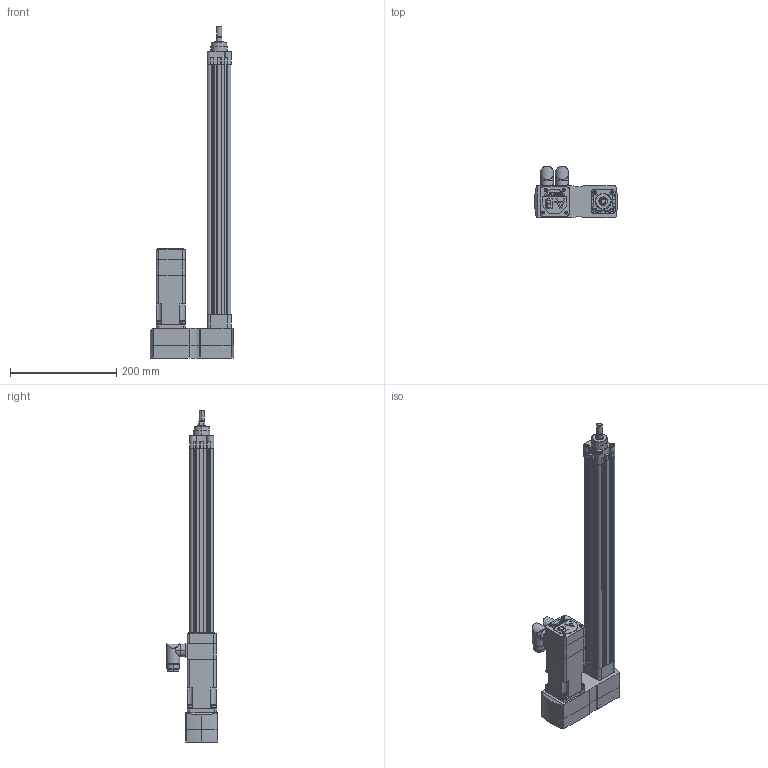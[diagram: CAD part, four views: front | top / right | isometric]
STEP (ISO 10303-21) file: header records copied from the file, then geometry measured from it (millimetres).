
FILE_DESCRIPTION (( 'STEP AP214' ), '1' );
FILE_NAME ('Rockwell Automation-$PARTNUMBER.STEP', '2015-07-10T16:36:37', ( 'Windows User' ), ( '' ), 'SwSTEP 2.0', 'SolidWorks 2015', '' );
FILE_SCHEMA (( 'AUTOMOTIVE_DESIGN' ));
Length unit declared in the file: millimetre
Products named in the file (15): Rockwell Automation-$PARTNUMBER_Rockwell Automation-MPAR-X1400E-V2D_PRT0006-543122; Rockwell Automation-$PARTNUMBER_Rockwell Automation-MPAR-X1400E-V2D_PRT0005-543122; Rockwell Automation-$PARTNUMBER_Rockwell Automation-MPAR-X1400E-V2D_627500; Rockwell Automation-$PARTNUMBER_Rockwell Automation-MPAR-X1400E-V2D_627500_200048_2; Rockwell Automation-$PARTNUMBER_Rockwell Automation-MPAR-X1400E-V2D_627500_223541_3; Rockwell Automation-$PARTNUMBER_Rockwell Automation-MPAR-X1400E-V2D_627500_200671_1; Rockwell Automation-$PARTNUMBER_Rockwell Automation-MPAR-X1400E-V2D_627500_1210151; Rockwell Automation-$PARTNUMBER_Rockwell Automation-MPAR-X1400E-V2D_627500_1210193; Rockwell Automation-$PARTNUMBER_Rockwell Automation-MPAR-X1400E-V2D_MPL-x1530F-V-X205_MPL-x1530x-xJ42AA; Rockwell Automation-$PARTNUMBER_Rockwell Automation-MPAR-X1400E-V2D_MPL-x1530x-xJ42AA_MPL-15xx-Feedback Connector; Rockwell Automation-$PARTNUMBER_Rockwell Automation-MPAR-X1400E-V2D_MPL-x1530x-xJ42AA_MPL-15xx-Power Connector; Rockwell Automation-$PARTNUMBER_Rockwell Automation-MPAR-X1400E-V2D_MPL-x1530x-xJ42AA_MPL-15xx-Shaft-Key_1530-SHAFT-KEYED; Rockwell Automation-$PARTNUMBER_Rockwell Automation-MPAR-X1400E-V2D_MPL-x1530x-xJ42AA_MPL-15xx-Body_1530; Rockwell Automation-$PARTNUMBER; Rockwell Automation-$PARTNUMBER_Rockwell Automation-MPAR-X1400E-V2D_MPAR-x1400x
Assembly tree (24 placements, depth 3):
  Rockwell Automation-$PARTNUMBER
    Rockwell Automation-$PARTNUMBER_Rockwell Automation-MPAR-X1400E-V2D_MPL-x1530F-V-X205_MPL-x1530x-xJ42AA
      Rockwell Automation-$PARTNUMBER_Rockwell Automation-MPAR-X1400E-V2D_MPL-x1530x-xJ42AA_MPL-15xx-Body_1530
      Rockwell Automation-$PARTNUMBER_Rockwell Automation-MPAR-X1400E-V2D_MPL-x1530x-xJ42AA_MPL-15xx-Shaft-Key_1530-SHAFT-KEYED
      Rockwell Automation-$PARTNUMBER_Rockwell Automation-MPAR-X1400E-V2D_MPL-x1530x-xJ42AA_MPL-15xx-Power Connector
      Rockwell Automation-$PARTNUMBER_Rockwell Automation-MPAR-X1400E-V2D_MPL-x1530x-xJ42AA_MPL-15xx-Feedback Connector
    Rockwell Automation-$PARTNUMBER_Rockwell Automation-MPAR-X1400E-V2D_627500
      Rockwell Automation-$PARTNUMBER_Rockwell Automation-MPAR-X1400E-V2D_627500_1210193
      Rockwell Automation-$PARTNUMBER_Rockwell Automation-MPAR-X1400E-V2D_627500_1210151
      Rockwell Automation-$PARTNUMBER_Rockwell Automation-MPAR-X1400E-V2D_627500_200671_1  x4
      Rockwell Automation-$PARTNUMBER_Rockwell Automation-MPAR-X1400E-V2D_627500_223541_3  x4
      Rockwell Automation-$PARTNUMBER_Rockwell Automation-MPAR-X1400E-V2D_627500_200048_2  x5
    Rockwell Automation-$PARTNUMBER_Rockwell Automation-MPAR-X1400E-V2D_MPAR-x1400x
      Rockwell Automation-$PARTNUMBER_Rockwell Automation-MPAR-X1400E-V2D_PRT0005-543122
      Rockwell Automation-$PARTNUMBER_Rockwell Automation-MPAR-X1400E-V2D_PRT0006-543122
Bounding box: 156.61 x 96.6 x 626 mm (x, y, z)
Volume: 1363791.3 mm3; surface area: 393241.2 mm2
Topology: 25 solids, 25 shells, 1697 faces, 4042 edges, 2516 vertices
Faces by surface type: plane 661, cylinder 580, cone 294, bspline 114, torus 48
Entity records: 45071 total; most frequent: CARTESIAN_POINT 10453, DIRECTION 7384, ORIENTED_EDGE 6700, EDGE_CURVE 3350, AXIS2_PLACEMENT_3D 2801, VERTEX_POINT 2096, VECTOR 1782, LINE 1782
